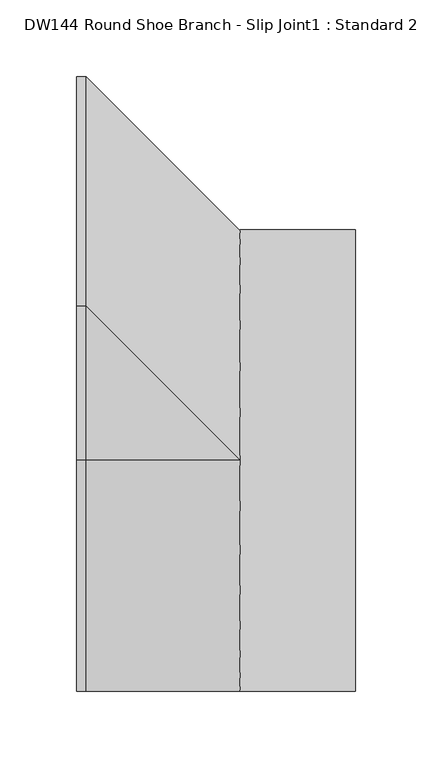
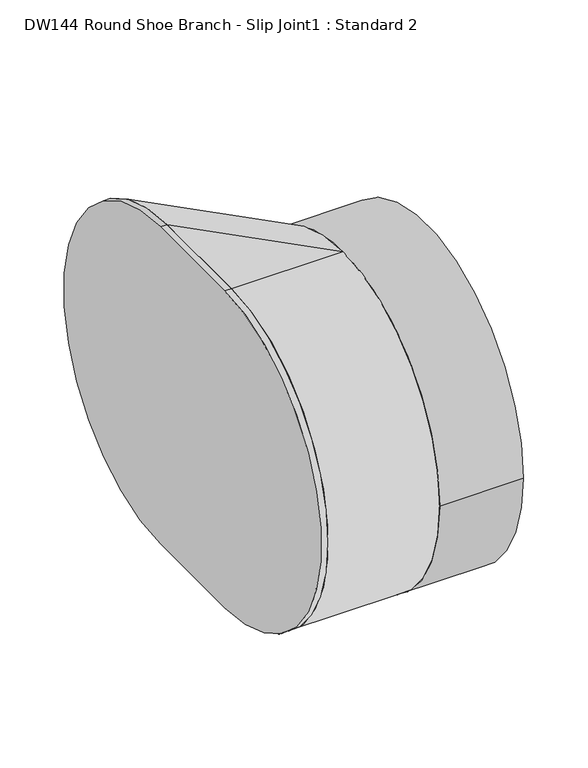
"""IFC4 building model written with IfcOpenShell, lengths in millimetres: duct fitting geometry, DW144 Round Shoe Branch - Slip Joint1 : Standard 2."""

from ifc_helpers import new_model, si_unit, point, frame, frame_2d, origin, origin_2d, place, context, project, spatial, polyline, circle_curve, trimmed, segment, composite_curve, outline, extrude, source, transform, mapped, element, save
from ifc_brep_helpers import plane_surface, cylinder_surface, extruded_surface, advanced_brep


def dw144_round_shoe_branch_slip_joint1_standard_2_7ba9e4ed(model_context):
    return source(origin(), model_context, "Body", "SolidModel", [
        extrude(outline(composite_curve([segment(trimmed(circle_curve(origin_2d(), 150.0), [point((150.0, 0.0))], [point((-150.0, 0.0))], False, "CARTESIAN"), True, "CONTINUOUS"), segment(trimmed(circle_curve(origin_2d(), 150.0), [point((-150.0, 0.0))], [point((150.0, 0.0))], False, "CARTESIAN"), True, "CONTINUOUS")], self_intersect=False)), frame((100.0, 0.0, 0.0), z_axis=(1.0, 0.0, 0.0), x_axis=(0.0, 1.0, 0.0)), (0.0, 0.0, 1.0), 75.0),
        advanced_brep(
        [(100.0, 0.0, -150.0), (100.0, 0.0, 150.0), (0.0, 0.0, -150.0), (0.0, 0.0, 150.0), (0.0, 100.0, 150.0), (0.0, 100.0, -150.0)],
        [
            (0, 1, circle_curve(frame((100.0, 0.0, 0.0), z_axis=(1.0, 0.0, 0.0), x_axis=(0.0, -1.0, 0.0)), 150.0)),
            (1, 0, circle_curve(frame((100.0, 0.0, 0.0), z_axis=(1.0, 0.0, 0.0), x_axis=(0.0, -1.0, 0.0)), 150.0)),
            (2, 3, circle_curve(frame((0.0, 0.0, 0.0), z_axis=(-1.0, 0.0, 0.0), x_axis=(0.0, -1.0, 0.0)), 150.0)),
            (3, 4),
            (4, 5, circle_curve(frame((0.0, 100.0, 0.0), z_axis=(-1.0, 0.0, 0.0), x_axis=(0.0, -1.0, 0.0)), 150.0)),
            (5, 2),
            (2, 0),
            (1, 3),
            (1, 4),
            (0, 5),
        ],
        [
            plane_surface(frame((100.0, 0.0, 0.0), z_axis=(1.0, 0.0, 0.0), x_axis=(0.0, -1.0, 0.0))),
            plane_surface(frame((0.0, 50.0, 0.0), z_axis=(-1.0, 0.0, 0.0), x_axis=(0.0, -1.0, 0.0))),
            cylinder_surface(frame((0.0, 0.0, 0.0), z_axis=(1.0, 0.0, 0.0), x_axis=(0.0, -1.0, 0.0)), 150.0),
            plane_surface(frame((0.0, 50.0, 150.0), z_axis=(0.0, 0.0, 1.0), x_axis=(0.0, 1.0, 0.0))),
            extruded_surface(trimmed(circle_curve(frame((100.0, 0.0, 0.0), z_axis=(-1.0, 0.0, 0.0), x_axis=(0.0, -1.0, 0.0)), 150.0), [point((100.0, 0.0, 150.0))], [point((100.0, 0.0, -150.0))], True, "CARTESIAN"), (-100.0, 100.0, 0.0), 141.4213562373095),
            plane_surface(frame((0.0, 50.0, -150.0), z_axis=(0.0, 0.0, -1.0), x_axis=(0.0, -1.0, 0.0))),
        ],
        [
            (0, [[1, 2]]),
            (1, [[3, 4, 5, 6]]),
            (2, [[7, -2, 8, -3]]),
            (3, [[-8, 9, -4]]),
            (4, [[-9, -1, 10, -5]]),
            (5, [[-10, -7, -6]]),
        ],
    ),
        extrude(outline(composite_curve([segment(trimmed(circle_curve(origin_2d(), 150.0), [point((0.0, -150.0))], [point((0.0, 150.0))], False, "CARTESIAN"), True, "CONTINUOUS"), segment(polyline([(0.0, 150.0), (100.0, 150.0)]), True, "CONTINUOUS"), segment(trimmed(circle_curve(frame_2d((100.0, 0.0)), 150.0), [point((100.0, 150.0))], [point((100.0, -150.0))], False, "CARTESIAN"), True, "CONTINUOUS"), segment(polyline([(100.0, -150.0), (0.0, -150.0)]), True, "CONTINUOUS")], self_intersect=False)), frame((-6.096, 0.0, 0.0), z_axis=(1.0, 0.0, 0.0), x_axis=(0.0, 1.0, 0.0)), (0.0, 0.0, 1.0), 6.096),
    ])


if __name__ == "__main__":
    model = new_model("IFC4")
    model_context = context("Model", 3, world=origin())
    ifc_project = project(units=[si_unit("LENGTHUNIT", "METRE", prefix="MILLI")], contexts=[model_context])
    site = spatial("IfcSite", under=ifc_project)
    building = spatial("IfcBuilding", under=site)
    placement = place(None, origin())
    dw144_round_shoe_branch_slip_joint1_standard_2_shape = dw144_round_shoe_branch_slip_joint1_standard_2_7ba9e4ed(model_context)
    element("IfcDuctFitting", 1, ObjectType="DW144 Round Shoe Branch - Slip Joint1 : Standard 2", at=placement, inside=building, context=model_context, shape_type="MappedRepresentation", body=[
        mapped(dw144_round_shoe_branch_slip_joint1_standard_2_shape, transform((0.0, 0.0, 0.0), x_axis=(1.0, 0.0, 0.0), y_axis=(0.0, 1.0, 0.0), z_axis=(0.0, 0.0, 1.0))),
    ])
    save(model, "model.ifc")
